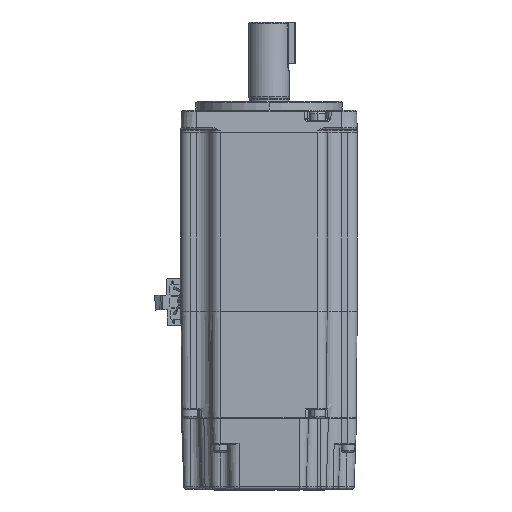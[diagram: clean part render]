
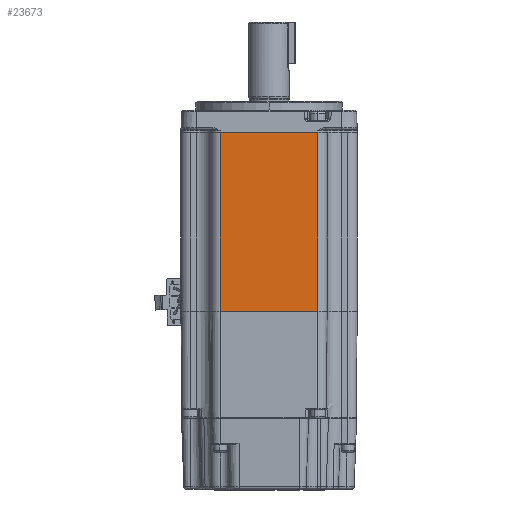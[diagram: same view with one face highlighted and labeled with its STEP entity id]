
A CAD part, front view. The second image highlights one B-rep face of the part: STEP entity #23673.
In plain terms, the highlighted planar face has unit normal (0, -1, 0).
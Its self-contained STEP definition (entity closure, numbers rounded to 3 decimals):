
#640 = DIRECTION ( 'NONE',  ( 1., 0., 0. ) ) ;
#3711 = VECTOR ( 'NONE', #38691, 1000. ) ;
#5242 = CARTESIAN_POINT ( 'NONE',  ( -16.551, -30., 30.45 ) ) ;
#6308 = LINE ( 'NONE', #26660, #29135 ) ;
#6471 = VECTOR ( 'NONE', #12157, 1000. ) ;
#7578 = CARTESIAN_POINT ( 'NONE',  ( -16.551, -30., 31.45 ) ) ;
#7998 = ORIENTED_EDGE ( 'NONE', *, *, #36669, .F. ) ;
#9728 = LINE ( 'NONE', #18745, #33981 ) ;
#12157 = DIRECTION ( 'NONE',  ( 0., 0., -1. ) ) ;
#12708 = VERTEX_POINT ( 'NONE', #35866 ) ;
#14466 = CARTESIAN_POINT ( 'NONE',  ( -16.551, -30., -30.45 ) ) ;
#15072 = ORIENTED_EDGE ( 'NONE', *, *, #57947, .T. ) ;
#15955 = PLANE ( 'NONE',  #28021 ) ;
#16475 = VERTEX_POINT ( 'NONE', #33617 ) ;
#16876 = VERTEX_POINT ( 'NONE', #5242 ) ;
#18745 = CARTESIAN_POINT ( 'NONE',  ( -16.551, -30., 30.45 ) ) ;
#20463 = EDGE_CURVE ( 'NONE', #12708, #24345, #6308, .T. ) ;
#20521 = CARTESIAN_POINT ( 'NONE',  ( -16.551, -30., 31.45 ) ) ;
#22048 = ORIENTED_EDGE ( 'NONE', *, *, #20463, .F. ) ;
#23673 = ADVANCED_FACE ( 'NONE', ( #58833 ), #15955, .F. ) ;
#24345 = VERTEX_POINT ( 'NONE', #14466 ) ;
#25130 = DIRECTION ( 'NONE',  ( -1., 0., 0. ) ) ;
#25578 = EDGE_CURVE ( 'NONE', #16475, #12708, #40140, .T. ) ;
#26660 = CARTESIAN_POINT ( 'NONE',  ( -16.551, -30., -30.45 ) ) ;
#28021 = AXIS2_PLACEMENT_3D ( 'NONE', #20521, #52480, #25130 ) ;
#28479 = EDGE_LOOP ( 'NONE', ( #22048, #50254, #7998, #15072 ) ) ;
#29135 = VECTOR ( 'NONE', #58548, 1000. ) ;
#33617 = CARTESIAN_POINT ( 'NONE',  ( 16.551, -30., 30.45 ) ) ;
#33981 = VECTOR ( 'NONE', #640, 1000. ) ;
#34065 = CARTESIAN_POINT ( 'NONE',  ( 16.551, -30., 31.45 ) ) ;
#35866 = CARTESIAN_POINT ( 'NONE',  ( 16.551, -30., -30.45 ) ) ;
#36669 = EDGE_CURVE ( 'NONE', #16876, #16475, #9728, .T. ) ;
#38691 = DIRECTION ( 'NONE',  ( 0., 0., -1. ) ) ;
#40140 = LINE ( 'NONE', #34065, #3711 ) ;
#42898 = LINE ( 'NONE', #7578, #6471 ) ;
#50254 = ORIENTED_EDGE ( 'NONE', *, *, #25578, .F. ) ;
#52480 = DIRECTION ( 'NONE',  ( 0., 1., 0. ) ) ;
#57947 = EDGE_CURVE ( 'NONE', #16876, #24345, #42898, .T. ) ;
#58548 = DIRECTION ( 'NONE',  ( -1., 0., 0. ) ) ;
#58833 = FACE_OUTER_BOUND ( 'NONE', #28479, .T. ) ;
